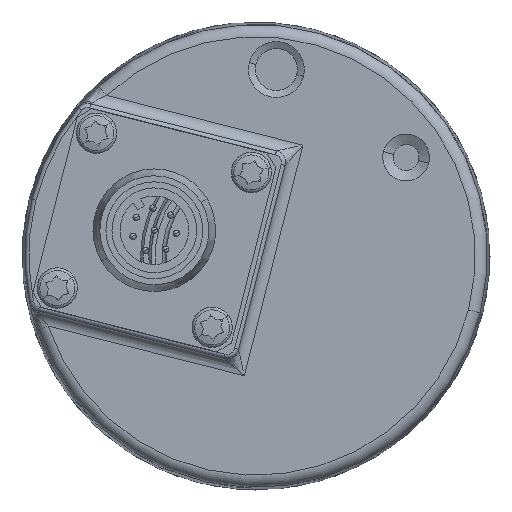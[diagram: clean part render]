
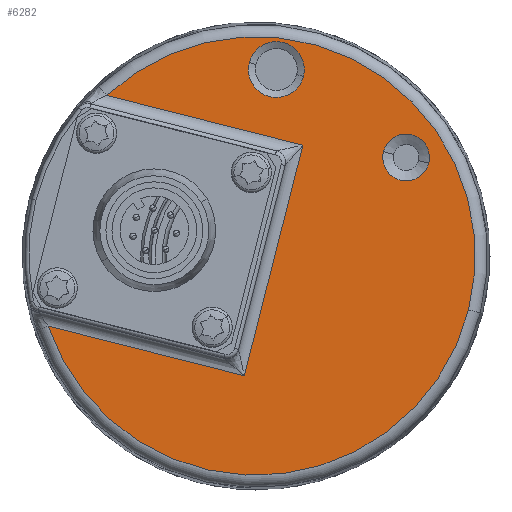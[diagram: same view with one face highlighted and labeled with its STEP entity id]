
A CAD part, left-side view. The second image highlights one B-rep face of the part: STEP entity #6282.
In plain terms, the highlighted planar face has unit normal (-1, 0, 0).
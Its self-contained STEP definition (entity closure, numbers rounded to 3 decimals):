
#98 = VERTEX_POINT ( 'NONE', #168 ) ;
#107 = VERTEX_POINT ( 'NONE', #186 ) ;
#121 = VERTEX_POINT ( 'NONE', #1592 ) ;
#135 = EDGE_CURVE ( 'NONE', #136, #121, #239, .T. ) ;
#136 = VERTEX_POINT ( 'NONE', #234 ) ;
#142 = VERTEX_POINT ( 'NONE', #1694 ) ;
#168 = CARTESIAN_POINT ( 'NONE',  ( -19., 1.443, -14.851 ) ) ;
#186 = CARTESIAN_POINT ( 'NONE',  ( -19., -21.412, 11.496 ) ) ;
#234 = CARTESIAN_POINT ( 'NONE',  ( -19., 0.84, 23.965 ) ) ;
#235 = DIRECTION ( 'NONE',  ( 0., -0.969, -0.246 ) ) ;
#236 = DIRECTION ( 'NONE',  ( 1., 0., 0. ) ) ;
#237 = CARTESIAN_POINT ( 'NONE',  ( -19., -2.52, 23.113 ) ) ;
#238 = AXIS2_PLACEMENT_3D ( 'NONE', #237, #236, #235 ) ;
#239 = CIRCLE ( 'NONE', #238, 3.466 ) ;
#1592 = CARTESIAN_POINT ( 'NONE',  ( -19., -5.88, 22.262 ) ) ;
#1622 = FACE_OUTER_BOUND ( 'NONE', #8464, .T. ) ;
#1623 = FACE_BOUND ( 'NONE', #6343, .T. ) ;
#1624 = FACE_BOUND ( 'NONE', #6202, .T. ) ;
#1694 = CARTESIAN_POINT ( 'NONE',  ( -19., -5.805, 13.745 ) ) ;
#1741 = DIRECTION ( 'NONE',  ( 0., 0.969, 0.246 ) ) ;
#1742 = VECTOR ( 'NONE', #1741, 1000. ) ;
#1743 = CARTESIAN_POINT ( 'NONE',  ( -19., 28.251, -8.056 ) ) ;
#1744 = LINE ( 'NONE', #1743, #1742 ) ;
#1745 = DIRECTION ( 'NONE',  ( 0., -0.969, -0.246 ) ) ;
#1746 = DIRECTION ( 'NONE',  ( -1., 0., 0. ) ) ;
#1747 = CARTESIAN_POINT ( 'NONE',  ( -19., 0., 0. ) ) ;
#1748 = AXIS2_PLACEMENT_3D ( 'NONE', #1747, #1746, #1745 ) ;
#1749 = CIRCLE ( 'NONE', #1748, 27.173 ) ;
#1750 = CARTESIAN_POINT ( 'NONE',  ( -19., 25.745, -8.691 ) ) ;
#1751 = DIRECTION ( 'NONE',  ( 0., -0.969, -0.246 ) ) ;
#1752 = VECTOR ( 'NONE', #1751, 1000. ) ;
#1753 = CARTESIAN_POINT ( 'NONE',  ( -19., -4.351, 14.114 ) ) ;
#1754 = LINE ( 'NONE', #1753, #1752 ) ;
#1795 = DIRECTION ( 'NONE',  ( 0., -0.969, -0.246 ) ) ;
#1796 = DIRECTION ( 'NONE',  ( 1., 0., 0. ) ) ;
#1797 = CARTESIAN_POINT ( 'NONE',  ( -19., -2.52, 23.113 ) ) ;
#1798 = AXIS2_PLACEMENT_3D ( 'NONE', #1797, #1796, #1795 ) ;
#1800 = DIRECTION ( 'NONE',  ( 0., -0.969, -0.246 ) ) ;
#1801 = DIRECTION ( 'NONE',  ( 1., 0., 0. ) ) ;
#1802 = CARTESIAN_POINT ( 'NONE',  ( -19., 0., 0. ) ) ;
#1803 = AXIS2_PLACEMENT_3D ( 'NONE', #1802, #1801, #1800 ) ;
#1804 = CIRCLE ( 'NONE', #1798, 3.466 ) ;
#1805 = PLANE ( 'NONE',  #1803 ) ;
#1888 = CIRCLE ( 'NONE', #1976, 2.899 ) ;
#1975 = CARTESIAN_POINT ( 'NONE',  ( -19., -18.601, 12.209 ) ) ;
#1976 = AXIS2_PLACEMENT_3D ( 'NONE', #1975, #1999, #1998 ) ;
#1998 = DIRECTION ( 'NONE',  ( 0., -0.969, -0.246 ) ) ;
#1999 = DIRECTION ( 'NONE',  ( 1., 0., 0. ) ) ;
#2010 = DIRECTION ( 'NONE',  ( 0., 0.246, -0.969 ) ) ;
#2011 = VECTOR ( 'NONE', #2010, 1000. ) ;
#2012 = CARTESIAN_POINT ( 'NONE',  ( -19., 1.074, -13.397 ) ) ;
#2013 = LINE ( 'NONE', #2012, #2011 ) ;
#2706 = CARTESIAN_POINT ( 'NONE',  ( -19., 18.498, 19.905 ) ) ;
#2707 = CARTESIAN_POINT ( 'NONE',  ( -19., -26.34, -6.676 ) ) ;
#2708 = DIRECTION ( 'NONE',  ( 0., -0.969, -0.246 ) ) ;
#2709 = DIRECTION ( 'NONE',  ( -1., 0., 0. ) ) ;
#2710 = CARTESIAN_POINT ( 'NONE',  ( -19., 0., 0. ) ) ;
#2711 = AXIS2_PLACEMENT_3D ( 'NONE', #2710, #2709, #2708 ) ;
#2712 = CIRCLE ( 'NONE', #2711, 27.173 ) ;
#3178 = CARTESIAN_POINT ( 'NONE',  ( -19., -15.791, 12.921 ) ) ;
#3279 = DIRECTION ( 'NONE',  ( 0., -0.969, -0.246 ) ) ;
#3280 = DIRECTION ( 'NONE',  ( 1., 0., 0. ) ) ;
#3281 = CARTESIAN_POINT ( 'NONE',  ( -19., -18.601, 12.209 ) ) ;
#3282 = AXIS2_PLACEMENT_3D ( 'NONE', #3281, #3280, #3279 ) ;
#3283 = CIRCLE ( 'NONE', #3282, 2.899 ) ;
#6198 = ORIENTED_EDGE ( 'NONE', *, *, #135, .T. ) ;
#6202 = EDGE_LOOP ( 'NONE', ( #6198, #8469 ) ) ;
#6282 = ADVANCED_FACE ( 'NONE', ( #1624, #1623, #1622 ), #1805, .F. ) ;
#6343 = EDGE_LOOP ( 'NONE', ( #8465, #8467 ) ) ;
#6474 = EDGE_CURVE ( 'NONE', #121, #136, #1804, .T. ) ;
#7758 = ORIENTED_EDGE ( 'NONE', *, *, #9125, .T. ) ;
#7759 = ORIENTED_EDGE ( 'NONE', *, *, #7947, .T. ) ;
#7947 = EDGE_CURVE ( 'NONE', #9260, #142, #1754, .T. ) ;
#8012 = ORIENTED_EDGE ( 'NONE', *, *, #8077, .T. ) ;
#8043 = VERTEX_POINT ( 'NONE', #1750 ) ;
#8050 = ORIENTED_EDGE ( 'NONE', *, *, #9258, .T. ) ;
#8077 = EDGE_CURVE ( 'NONE', #8043, #9259, #1749, .T. ) ;
#8132 = EDGE_CURVE ( 'NONE', #98, #8043, #1744, .T. ) ;
#8464 = EDGE_LOOP ( 'NONE', ( #8466, #8012, #8050, #7759, #7758 ) ) ;
#8465 = ORIENTED_EDGE ( 'NONE', *, *, #9296, .T. ) ;
#8466 = ORIENTED_EDGE ( 'NONE', *, *, #8132, .T. ) ;
#8467 = ORIENTED_EDGE ( 'NONE', *, *, #9096, .T. ) ;
#8469 = ORIENTED_EDGE ( 'NONE', *, *, #6474, .T. ) ;
#9096 = EDGE_CURVE ( 'NONE', #107, #9288, #1888, .T. ) ;
#9125 = EDGE_CURVE ( 'NONE', #142, #98, #2013, .T. ) ;
#9258 = EDGE_CURVE ( 'NONE', #9259, #9260, #2712, .T. ) ;
#9259 = VERTEX_POINT ( 'NONE', #2707 ) ;
#9260 = VERTEX_POINT ( 'NONE', #2706 ) ;
#9288 = VERTEX_POINT ( 'NONE', #3178 ) ;
#9296 = EDGE_CURVE ( 'NONE', #9288, #107, #3283, .T. ) ;
